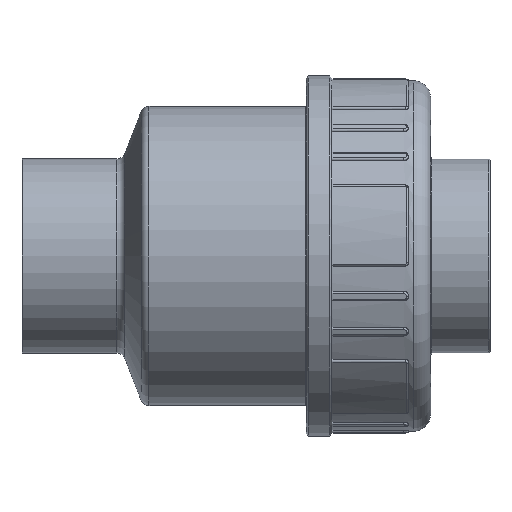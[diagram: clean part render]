
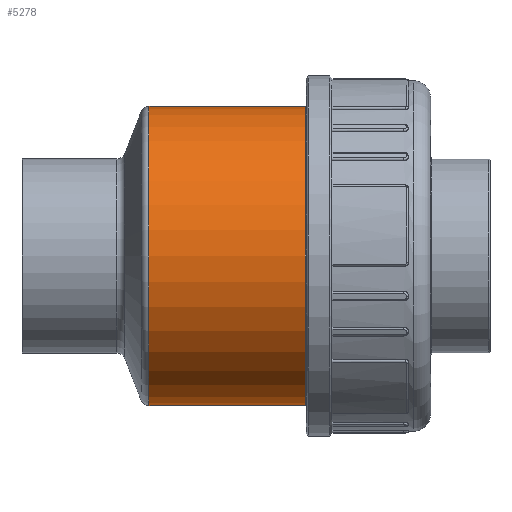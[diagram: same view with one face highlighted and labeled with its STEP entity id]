
A CAD part, left-side view. The second image highlights one B-rep face of the part: STEP entity #5278.
In plain terms, the highlighted cylindrical face has radius 69.75 mm (diameter 139.5 mm), a full revolution.
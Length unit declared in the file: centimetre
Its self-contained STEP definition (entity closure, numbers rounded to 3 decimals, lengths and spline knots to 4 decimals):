
#243=FACE_BOUND('',#1431,.T.);
#244=FACE_BOUND('',#1432,.T.);
#1089=FACE_OUTER_BOUND('',#1430,.T.);
#1430=EDGE_LOOP('',(#4458));
#1431=EDGE_LOOP('',(#4459));
#1432=EDGE_LOOP('',(#4460));
#1610=B_SPLINE_CURVE_WITH_KNOTS('',3,(#31032,#31033,#31034,#31035,#31036,
#31037,#31038,#31039,#31040,#31041,#31042,#31043,#31044,#31045,#31046,#31047,
#31048,#31049),.UNSPECIFIED.,.T.,.F.,(4,1,1,1,1,1,1,1,1,1,1,1,1,1,1,4),
(-13.3893,-12.4329,-11.4765,-10.5202,
-9.5638,-8.6074,-7.651,-7.0134,
-6.3759,-5.7383,-4.4631,-3.8255,
-2.8691,-1.9128,-0.9564,0.),
 .UNSPECIFIED.);
#1895=CIRCLE('',#5787,6.975);
#1896=CIRCLE('',#5789,6.975);
#2358=VERTEX_POINT('',#31026);
#2359=VERTEX_POINT('',#31029);
#2360=VERTEX_POINT('',#31031);
#3069=EDGE_CURVE('',#2358,#2358,#1895,.T.);
#3070=EDGE_CURVE('',#2359,#2359,#1896,.T.);
#3071=EDGE_CURVE('',#2360,#2360,#1610,.T.);
#4458=ORIENTED_EDGE('',*,*,#3070,.T.);
#4459=ORIENTED_EDGE('',*,*,#3071,.F.);
#4460=ORIENTED_EDGE('',*,*,#3069,.F.);
#4674=CYLINDRICAL_SURFACE('',#5788,6.975);
#5278=ADVANCED_FACE('',(#1089,#243,#244),#4674,.T.);
#5787=AXIS2_PLACEMENT_3D('',#31027,#7066,#7067);
#5788=AXIS2_PLACEMENT_3D('',#31028,#7068,#7069);
#5789=AXIS2_PLACEMENT_3D('',#31030,#7070,#7071);
#7066=DIRECTION('center_axis',(0.,1.,0.));
#7067=DIRECTION('ref_axis',(1.,0.,0.));
#7068=DIRECTION('center_axis',(0.,1.,0.));
#7069=DIRECTION('ref_axis',(-1.,0.,0.));
#7070=DIRECTION('center_axis',(0.,1.,0.));
#7071=DIRECTION('ref_axis',(1.,0.,0.));
#31026=CARTESIAN_POINT('',(-6.975,4.5061,0.));
#31027=CARTESIAN_POINT('Origin',(0.,4.5061,
0.));
#31028=CARTESIAN_POINT('Origin',(0.,0.995,
0.));
#31029=CARTESIAN_POINT('',(-6.975,-2.79,0.));
#31030=CARTESIAN_POINT('Origin',(0.,-2.79,0.));
#31031=CARTESIAN_POINT('',(6.6105,0.,2.2254));
#31032=CARTESIAN_POINT('Ctrl Pts',(6.6103,0.,
2.2256));
#31033=CARTESIAN_POINT('Ctrl Pts',(6.6103,-0.3362,
2.2256));
#31034=CARTESIAN_POINT('Ctrl Pts',(6.6654,-1.0087,2.0703));
#31035=CARTESIAN_POINT('Ctrl Pts',(6.8416,-1.8038,1.4367));
#31036=CARTESIAN_POINT('Ctrl Pts',(6.9804,-2.2534,0.5175));
#31037=CARTESIAN_POINT('Ctrl Pts',(6.9806,-2.2533,-0.5175));
#31038=CARTESIAN_POINT('Ctrl Pts',(6.8413,-1.804,-1.4367));
#31039=CARTESIAN_POINT('Ctrl Pts',(6.6853,-1.0966,-1.9996));
#31040=CARTESIAN_POINT('Ctrl Pts',(6.6078,-0.3408,
-2.2338));
#31041=CARTESIAN_POINT('Ctrl Pts',(6.6076,0.3407,-2.2336));
#31042=CARTESIAN_POINT('Ctrl Pts',(6.6968,1.205,-1.9669));
#31043=CARTESIAN_POINT('Ctrl Pts',(6.8651,1.8795,-1.3423));
#31044=CARTESIAN_POINT('Ctrl Pts',(6.9803,2.253,-0.4019));
#31045=CARTESIAN_POINT('Ctrl Pts',(6.9805,2.2535,0.5172));
#31046=CARTESIAN_POINT('Ctrl Pts',(6.8416,1.8037,1.4369));
#31047=CARTESIAN_POINT('Ctrl Pts',(6.6654,1.0087,2.0702));
#31048=CARTESIAN_POINT('Ctrl Pts',(6.6103,0.3362,2.2256));
#31049=CARTESIAN_POINT('Ctrl Pts',(6.6103,0.,
2.2256));
